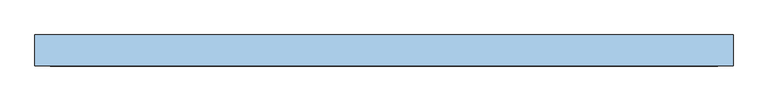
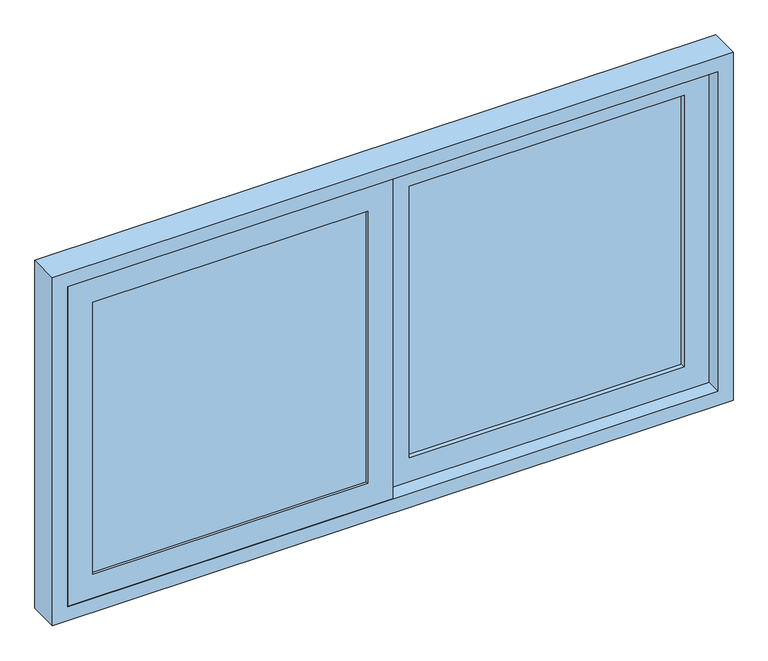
"""IFC4 building model written with IfcOpenShell, lengths in millimetres: window geometry, Janela Correr (bancada)- 2 folhas.GLE : 135X70 h=17 (Abrir 2 folhas)."""

from ifc_helpers import new_model, si_unit, frame, origin, place, context, project, spatial, polyline, outline, extrude, source, transform, mapped, element, save


def window_c5818056(model_context):
    return source(origin(), model_context, "Body", "SweptSolid", [
        extrude(outline(polyline([(1000.0, -675.0), (1000.0, 675.0), (1730.0, 675.0), (1730.0, -675.0), (1000.0, -675.0)]), holes=[polyline([(1700.0, -645.0), (1700.0, 645.0), (1030.0, 645.0), (1030.0, -645.0), (1700.0, -645.0)])]), frame((0.0, -30.0, 0.0), z_axis=(0.0, 1.0, 0.0), x_axis=(0.0, 0.0, 1.0)), (0.0, 0.0, 1.0), 60.0),
        extrude(outline(polyline([(-50.0, -25.0), (-595.0, -25.0), (-595.0, -15.0), (-50.0, -15.0), (-50.0, -25.0)])), frame((0.0, 0.0, 1080.0), z_axis=(0.0, 0.0, 1.0), x_axis=(1.0, 0.0, 0.0)), (0.0, 0.0, 1.0), 570.0),
        extrude(outline(polyline([(595.0, 10.0), (50.0, 10.0), (50.0, 20.0), (595.0, 20.0), (595.0, 10.0)])), frame((0.0, 0.0, 1080.0), z_axis=(0.0, 0.0, 1.0), x_axis=(1.0, 0.0, 0.0)), (0.0, 0.0, 1.0), 570.0),
        extrude(outline(polyline([(1700.0, 0.0), (1030.0, 0.0), (1030.0, 645.0), (1700.0, 645.0), (1700.0, 0.0)]), holes=[polyline([(1650.0, 50.0), (1650.0, 595.0), (1080.0, 595.0), (1080.0, 50.0), (1650.0, 50.0)])]), frame((0.0, 0.0, 0.0), z_axis=(0.0, 1.0, 0.0), x_axis=(0.0, 0.0, 1.0)), (0.0, 0.0, 1.0), 30.0),
        extrude(outline(polyline([(1700.0, -645.0), (1030.0, -645.0), (1030.0, 0.0), (1700.0, 0.0), (1700.0, -645.0)]), holes=[polyline([(1650.0, -595.0), (1650.0, -50.0), (1080.0, -50.0), (1080.0, -595.0), (1650.0, -595.0)])]), frame((0.0, -30.0, 0.0), z_axis=(0.0, 1.0, 0.0), x_axis=(0.0, 0.0, 1.0)), (0.0, 0.0, 1.0), 30.0),
    ])


if __name__ == "__main__":
    model = new_model("IFC4")
    model_context = context("Model", 3, world=origin())
    ifc_project = project(units=[si_unit("LENGTHUNIT", "METRE", prefix="MILLI")], contexts=[model_context])
    site = spatial("IfcSite", under=ifc_project)
    building = spatial("IfcBuilding", under=site)
    placement = place(None, origin())
    window_shape = window_c5818056(model_context)
    element("IfcWindow", 1, ObjectType="Janela Correr (bancada)- 2 folhas.GLE : 135X70 h=17 (Abrir 2 folhas)", at=placement, inside=building, context=model_context, shape_type="MappedRepresentation", body=[
        mapped(window_shape, transform((0.0, 0.0, 0.0), x_axis=(1.0, 0.0, 0.0), y_axis=(0.0, 1.0, 0.0), z_axis=(0.0, 0.0, 1.0))),
    ])
    save(model, "model.ifc")
